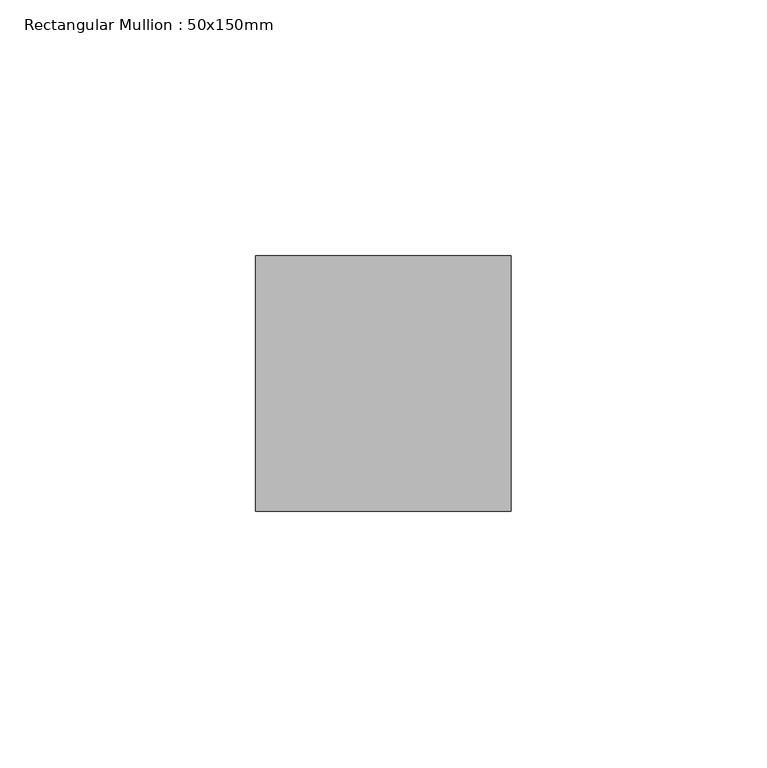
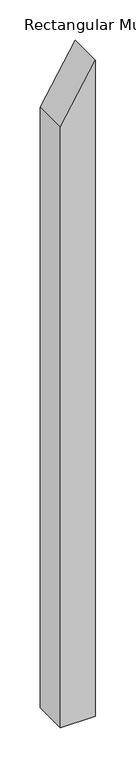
"""IFC4 building model written with IfcOpenShell, lengths in millimetres: member geometry, Rectangular Mullion : 50x150mm."""

from ifc_helpers import new_model, si_unit, frame, origin, place, context, project, spatial, polyline, outline, extrude, source, transform, mapped, element, save


def rectangular_mullion_50x150mm_f1953873(model_context):
    return source(origin(), model_context, "Body", "SweptSolid", [
        extrude(outline(polyline([(0.0, 0.0), (-84.0196675, -50.0), (-993.2523063, -50.0), (-993.2523063, 0.0), (0.0, 0.0)])), frame((0.0, -25.0, 0.0), z_axis=(0.0, 1.0, 0.0), x_axis=(0.0, 0.0, 1.0)), (0.0, 0.0, 1.0), 50.0),
    ])


if __name__ == "__main__":
    model = new_model("IFC4")
    model_context = context("Model", 3, world=origin())
    ifc_project = project(units=[si_unit("LENGTHUNIT", "METRE", prefix="MILLI")], contexts=[model_context])
    site = spatial("IfcSite", under=ifc_project)
    building = spatial("IfcBuilding", under=site)
    placement = place(None, origin())
    rectangular_mullion_50x150mm_shape = rectangular_mullion_50x150mm_f1953873(model_context)
    element("IfcMember", 1, ObjectType="Rectangular Mullion : 50x150mm", at=placement, inside=building, context=model_context, shape_type="MappedRepresentation", body=[
        mapped(rectangular_mullion_50x150mm_shape, transform((0.0, 0.0, 0.0), x_axis=(1.0, 0.0, 0.0), y_axis=(0.0, 1.0, 0.0), z_axis=(0.0, 0.0, 1.0))),
    ])
    save(model, "model.ifc")
